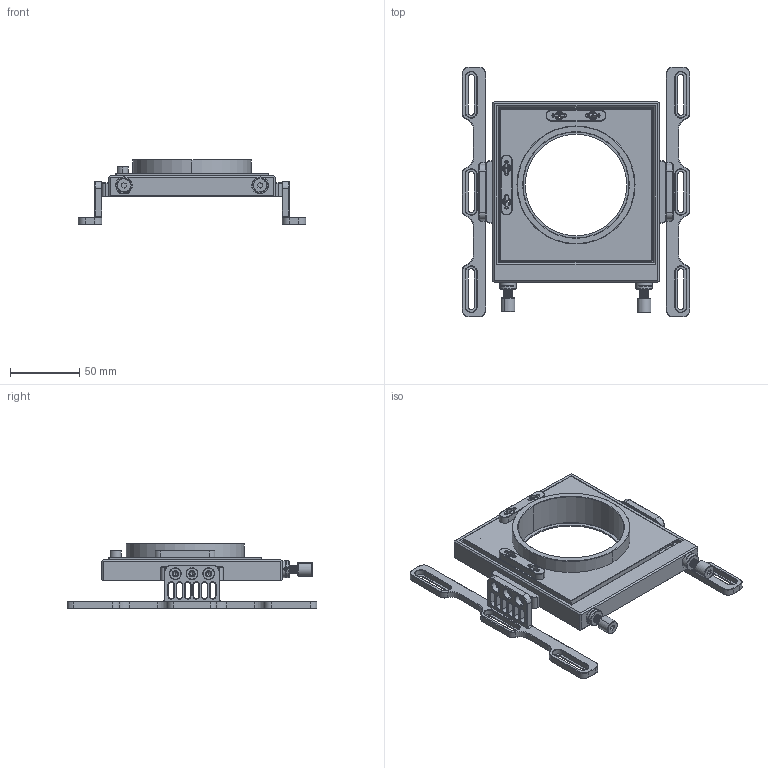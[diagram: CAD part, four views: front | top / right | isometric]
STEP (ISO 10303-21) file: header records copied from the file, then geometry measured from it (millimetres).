
FILE_DESCRIPTION (( 'STEP AP203' ), '1' );
FILE_NAME ('三英寸上方调节装配体.STEP', '2026-10-10T09:18:28', ( '' ), ( '' ), 'SwSTEP 2.0', 'SolidWorks 2024', '' );
FILE_SCHEMA (( 'CONFIG_CONTROL_DESIGN' ));
Length unit declared in the file: millimetre
Products named in the file (15): 2×12陶瓷销; 长顶杆2; 0.8×5×15; 三角垫块; 三英寸定板; 2×35金属销; 三英寸动板; 三英寸上方调节装配体; 2短顶杆; 2×8金属销; 2螺母; 8.5珠子; v垫块; 加高板; 8mm珠子
Assembly tree (27 placements, depth 2):
  三英寸上方调节装配体
    三英寸定板
    8mm珠子
    三英寸动板
    2短顶杆
    v垫块
    三角垫块
    2螺母  x2
    长顶杆2
    8.5珠子  x2
    2×12陶瓷销  x4
    2×35金属销  x2
    2×8金属销  x4
    0.8×5×15  x4
    加高板  x2
Bounding box: 164 x 180 x 46.78 mm (x, y, z)
Volume: 191372.6 mm3; surface area: 95789.2 mm2
Topology: 27 solids, 27 shells, 1306 faces, 3183 edges, 1940 vertices
Faces by surface type: plane 487, cylinder 416, cone 343, bspline 38, torus 16, sphere 6
Entity records: 49560 total; most frequent: CARTESIAN_POINT 25914, ORIENTED_EDGE 4632, DIRECTION 4423, EDGE_CURVE 2316, AXIS2_PLACEMENT_3D 1577, VERTEX_POINT 1431, LINE 1269, VECTOR 1269
